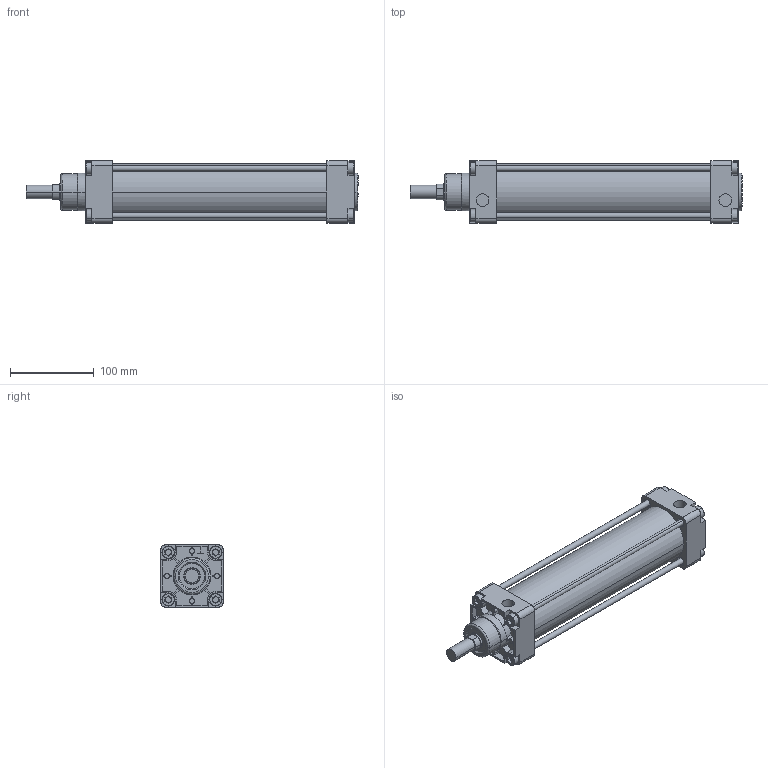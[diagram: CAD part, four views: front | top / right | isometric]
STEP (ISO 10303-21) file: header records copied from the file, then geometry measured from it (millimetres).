
FILE_DESCRIPTION(('CATIA V5 STEP Exchange'),'2;1');
FILE_NAME('D:\stp file for catalog\PNC\63\PNC 63-20-200.stp','2015-06-16T06:02:21+00:00',('none'),('none'),'Version 5-6 Release 2012','CATIA V5 STEP AP203','none');
FILE_SCHEMA(('CONFIG_CONTROL_DESIGN'));
Length unit declared in the file: millimetre
Products named in the file (1): PNC 63-20-200-00
Assembly tree (2 placements, depth 2):
  PNC 63-20-200-00
    #58
    #15151
Bounding box: 395.5 x 74.5 x 74.5 mm (x, y, z)
Volume: 740936.6 mm3; surface area: 232380.1 mm2
Topology: 6 solids, 6 shells, 572 faces, 1446 edges, 930 vertices
Faces by surface type: plane 356, cylinder 154, torus 26, cone 20, extrusion 16
Entity records: 15575 total; most frequent: CARTESIAN_POINT 3056, ORIENTED_EDGE 2892, DIRECTION 1926, EDGE_CURVE 1446, VECTOR 930, VERTEX_POINT 930, LINE 914, AXIS2_PLACEMENT_3D 732
